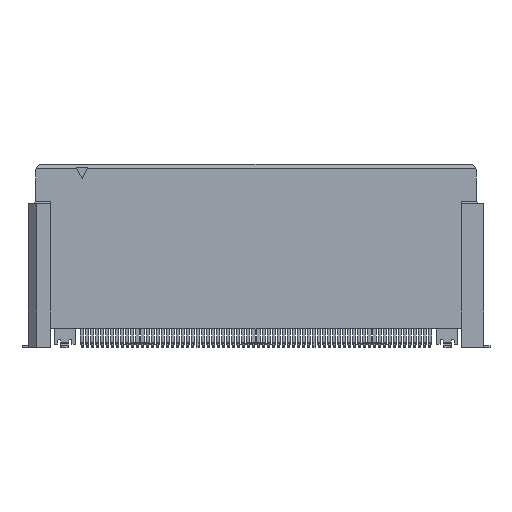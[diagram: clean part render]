
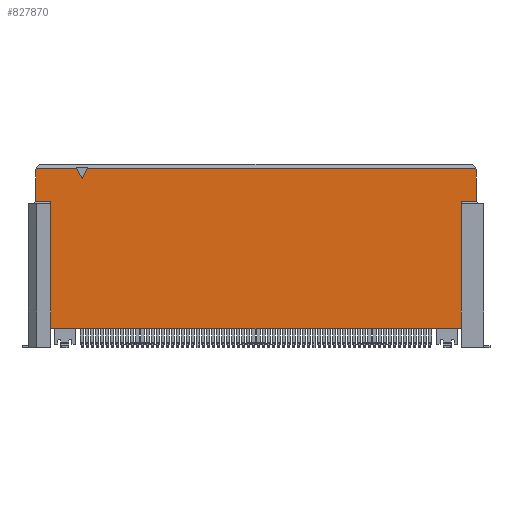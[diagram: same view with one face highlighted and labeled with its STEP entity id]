
A CAD part, front view. The second image highlights one B-rep face of the part: STEP entity #827870.
In plain terms, the highlighted planar face has unit normal (0, -1, 0) as drawn and (1, 0, 0) by its records, which use the part's own axes.
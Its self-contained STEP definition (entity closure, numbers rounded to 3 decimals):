
#5620=CARTESIAN_POINT('',(5.47,4.45,16.61));
#5630=VERTEX_POINT('',#5620);
#5930=CARTESIAN_POINT('',(5.47,7.58,16.61));
#5940=VERTEX_POINT('',#5930);
#5970=CARTESIAN_POINT('',(5.47,0.,16.61));
#5980=DIRECTION('',(0.,-1.,0.));
#5990=VECTOR('',#5980,1.);
#6000=LINE('',#5970,#5990);
#6010=EDGE_CURVE('',#5940,#5630,#6000,.T.);
#6390=CARTESIAN_POINT('',(5.47,7.73,16.55));
#6400=VERTEX_POINT('',#6390);
#6430=CARTESIAN_POINT('',(5.47,7.83,16.51));
#6440=DIRECTION('',(0.,-0.928,0.371));
#6450=VECTOR('',#6440,1.);
#6460=LINE('',#6430,#6450);
#6470=EDGE_CURVE('',#6400,#5940,#6460,.T.);
#62940=CARTESIAN_POINT('',(5.47,4.45,15.11));
#62950=VERTEX_POINT('',#62940);
#62980=CARTESIAN_POINT('',(5.47,0.,15.11));
#62990=DIRECTION('',(0.,1.,0.));
#63000=VECTOR('',#62990,1.);
#63010=LINE('',#62980,#63000);
#63020=CARTESIAN_POINT('',(5.47,-8.18,15.11));
#63030=VERTEX_POINT('',#63020);
#63040=EDGE_CURVE('',#63030,#62950,#63010,.T.);
#63580=CARTESIAN_POINT('',(5.47,4.45,15.86));
#63590=DIRECTION('',(0.,0.,1.));
#63600=VECTOR('',#63590,1.);
#63610=LINE('',#63580,#63600);
#63620=EDGE_CURVE('',#62950,#5630,#63610,.T.);
#451330=CARTESIAN_POINT('',(5.47,7.73,12.5));
#451340=VERTEX_POINT('',#451330);
#451490=CARTESIAN_POINT('',(5.47,6.73,12.));
#451500=VERTEX_POINT('',#451490);
#451530=CARTESIAN_POINT('',(5.47,0.,8.635));
#451540=DIRECTION('',(0.,-0.894,-0.447));
#451550=VECTOR('',#451540,1.);
#451560=LINE('',#451530,#451550);
#451570=EDGE_CURVE('',#451340,#451500,#451560,.T.);
#451900=CARTESIAN_POINT('',(5.47,0.,15.365));
#451910=DIRECTION('',(0.,0.894,-0.447));
#451920=VECTOR('',#451910,1.);
#451930=LINE('',#451900,#451920);
#451940=CARTESIAN_POINT('',(5.47,7.73,11.5));
#451950=VERTEX_POINT('',#451940);
#451960=EDGE_CURVE('',#451500,#451950,#451930,.T.);
#825290=CARTESIAN_POINT('',(5.47,4.45,-27.11));
#825300=VERTEX_POINT('',#825290);
#825560=CARTESIAN_POINT('',(5.47,0.,-27.11));
#825570=DIRECTION('',(0.,-1.,0.));
#825580=VECTOR('',#825570,1.);
#825590=LINE('',#825560,#825580);
#825600=CARTESIAN_POINT('',(5.47,7.58,-27.11));
#825610=VERTEX_POINT('',#825600);
#825620=EDGE_CURVE('',#825610,#825300,#825590,.T.);
#825880=CARTESIAN_POINT('',(5.47,7.83,-27.01));
#825890=DIRECTION('',(0.,-0.928,-0.371));
#825900=VECTOR('',#825890,1.);
#825910=LINE('',#825880,#825900);
#825920=CARTESIAN_POINT('',(5.47,7.73,-27.05));
#825930=VERTEX_POINT('',#825920);
#825940=EDGE_CURVE('',#825930,#825610,#825910,.T.);
#827270=CARTESIAN_POINT('',(5.47,7.73,-10.75));
#827280=DIRECTION('',(0.,0.,-1.));
#827290=VECTOR('',#827280,1.);
#827300=LINE('',#827270,#827290);
#827310=EDGE_CURVE('',#451950,#825930,#827300,.T.);
#827360=CARTESIAN_POINT('',(5.47,7.73,14.25));
#827370=DIRECTION('',(0.,0.,-1.));
#827380=VECTOR('',#827370,1.);
#827390=LINE('',#827360,#827380);
#827400=EDGE_CURVE('',#6400,#451340,#827390,.T.);
#827480=CARTESIAN_POINT('',(5.47,-1.167,-11.05));
#827490=DIRECTION('',(-1.,0.,0.));
#827500=DIRECTION('',(0.,1.,0.));
#827510=AXIS2_PLACEMENT_3D('',#827480,#827490,#827500);
#827520=PLANE('',#827510);
#827530=CARTESIAN_POINT('',(5.47,0.,-25.61));
#827540=DIRECTION('',(0.,1.,0.));
#827550=VECTOR('',#827540,1.);
#827560=LINE('',#827530,#827550);
#827570=CARTESIAN_POINT('',(5.47,-8.18,-25.61));
#827580=VERTEX_POINT('',#827570);
#827590=CARTESIAN_POINT('',(5.47,4.45,-25.61));
#827600=VERTEX_POINT('',#827590);
#827610=EDGE_CURVE('',#827580,#827600,#827560,.T.);
#827620=ORIENTED_EDGE('',*,*,#827610,.T.);
#827630=CARTESIAN_POINT('',(5.47,-8.18,14.5));
#827640=DIRECTION('',(0.,0.,1.));
#827650=VECTOR('',#827640,1.);
#827660=LINE('',#827630,#827650);
#827670=EDGE_CURVE('',#827580,#63030,#827660,.T.);
#827680=ORIENTED_EDGE('',*,*,#827670,.F.);
#827690=ORIENTED_EDGE('',*,*,#63040,.F.);
#827700=ORIENTED_EDGE('',*,*,#63620,.F.);
#827710=ORIENTED_EDGE('',*,*,#6010,.T.);
#827720=ORIENTED_EDGE('',*,*,#6470,.T.);
#827730=ORIENTED_EDGE('',*,*,#827400,.F.);
#827740=ORIENTED_EDGE('',*,*,#451570,.F.);
#827750=ORIENTED_EDGE('',*,*,#451960,.F.);
#827760=ORIENTED_EDGE('',*,*,#827310,.F.);
#827770=ORIENTED_EDGE('',*,*,#825940,.F.);
#827780=ORIENTED_EDGE('',*,*,#825620,.F.);
#827790=CARTESIAN_POINT('',(5.47,4.45,-26.36));
#827800=DIRECTION('',(0.,0.,-1.));
#827810=VECTOR('',#827800,1.);
#827820=LINE('',#827790,#827810);
#827830=EDGE_CURVE('',#827600,#825300,#827820,.T.);
#827840=ORIENTED_EDGE('',*,*,#827830,.T.);
#827850=EDGE_LOOP('',(#827840,#827780,#827770,#827760,#827750,#827740,
#827730,#827720,#827710,#827700,#827690,#827680,#827620));
#827860=FACE_OUTER_BOUND('',#827850,.T.);
#827870=ADVANCED_FACE('',(#827860),#827520,.F.);
